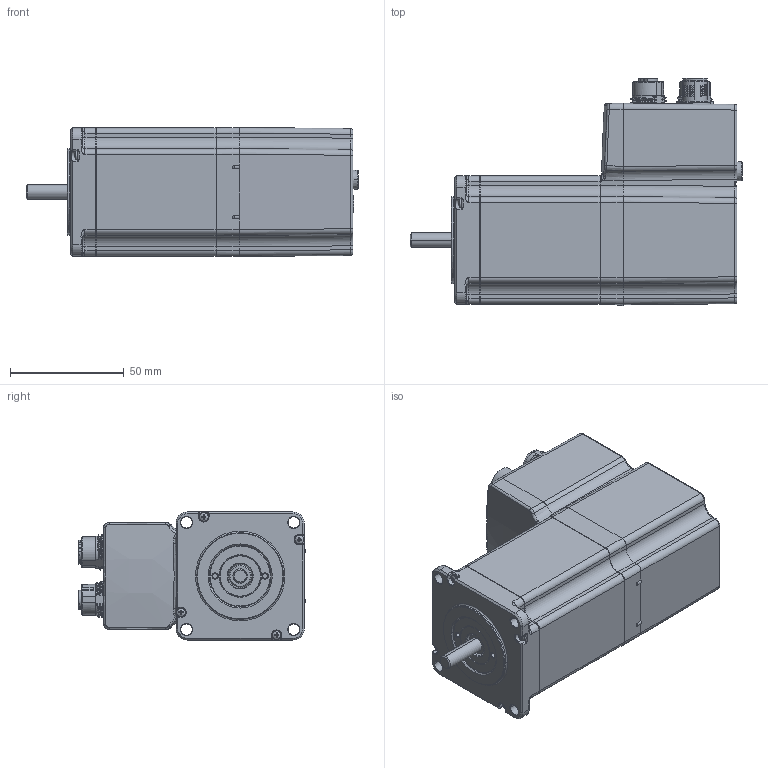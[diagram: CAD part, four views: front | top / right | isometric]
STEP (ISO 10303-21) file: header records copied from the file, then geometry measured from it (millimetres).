
FILE_DESCRIPTION((''),'2;1');
FILE_NAME('STEPPERASSY_ASM','2023-03-17T10:18:56',('Administrator'),(''),'CREO PARAMETRIC BY PTC INC, 2022014','CREO PARAMETRIC BY PTC INC, 2022014','');
FILE_SCHEMA(('AUTOMOTIVE_DESIGN { 1 0 10303 214 1 1 1 1 }'));
Products named in the file (8): FRONT_CAP_1; STATOR; RADIAL_CON; SHAFT_1; LOCK_NUT_1; SEALING_1; FAST_S; STEPPERASSY_ASM
Assembly tree (10 placements, depth 2):
  STEPPERASSY_ASM
    FRONT_CAP_1
    STATOR
    RADIAL_CON
    SHAFT_1
    LOCK_NUT_1
    SEALING_1
    FAST_S  x4
Bounding box: 145.9 x 99.82 x 56.67 mm (x, y, z)
Volume: 443363.5 mm3; surface area: 63101.5 mm2
Topology: 10 solids, 16 shells, 2180 faces, 5555 edges, 3470 vertices
Faces by surface type: plane 789, cylinder 609, bspline 359, cone 208, torus 181, sphere 32, extrusion 2
Entity records: 122046 total; most frequent: CARTESIAN_POINT 46906, ORIENTED_EDGE 10450, DIRECTION 9549, PRESENTATION_STYLE_ASSIGNMENT 5754, EDGE_CURVE 5227, STYLED_ITEM 5013, CURVE_STYLE 4809, AXIS2_PLACEMENT_3D 3565
